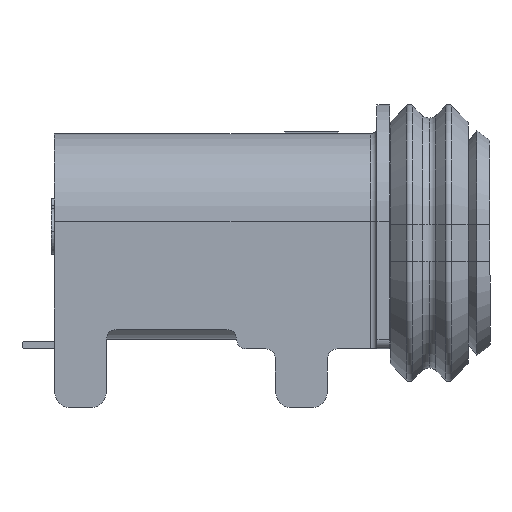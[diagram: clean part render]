
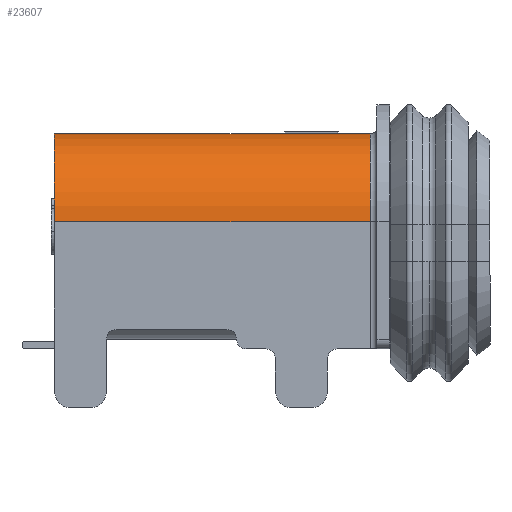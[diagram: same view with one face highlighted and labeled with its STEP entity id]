
A CAD part, front view. The second image highlights one B-rep face of the part: STEP entity #23607.
In plain terms, the highlighted cylindrical face has radius 1.35 mm (diameter 2.7 mm), a partial arc.
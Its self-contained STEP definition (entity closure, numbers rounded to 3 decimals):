
#403 = AXIS2_PLACEMENT_3D ( 'NONE', #21081, #21647, #57491 ) ;
#3842 = EDGE_CURVE ( 'NONE', #16527, #28881, #46842, .T. ) ;
#3853 = CYLINDRICAL_SURFACE ( 'NONE', #403, 1.35 ) ;
#4347 = VERTEX_POINT ( 'NONE', #41269 ) ;
#5651 = CIRCLE ( 'NONE', #46642, 1.35 ) ;
#5788 = DIRECTION ( 'NONE',  ( 1., 0., 0. ) ) ;
#7417 = CARTESIAN_POINT ( 'NONE',  ( 1.63, -0.11, -6.39 ) ) ;
#7708 = LINE ( 'NONE', #7417, #10063 ) ;
#8399 = DIRECTION ( 'NONE',  ( 0., -1., 0. ) ) ;
#9478 = ORIENTED_EDGE ( 'NONE', *, *, #11015, .F. ) ;
#9729 = EDGE_CURVE ( 'NONE', #4347, #56689, #5651, .T. ) ;
#9880 = DIRECTION ( 'NONE',  ( 0., 0., -1. ) ) ;
#10063 = VECTOR ( 'NONE', #57259, 1000. ) ;
#10470 = CARTESIAN_POINT ( 'NONE',  ( 1.63, 1.24, -1.53 ) ) ;
#11015 = EDGE_CURVE ( 'NONE', #4347, #28881, #29431, .T. ) ;
#11632 = DIRECTION ( 'NONE',  ( 0., 0., -1. ) ) ;
#15849 = VECTOR ( 'NONE', #11632, 1000. ) ;
#16527 = VERTEX_POINT ( 'NONE', #55235 ) ;
#20949 = EDGE_CURVE ( 'NONE', #16527, #56689, #7708, .T. ) ;
#21081 = CARTESIAN_POINT ( 'NONE',  ( 1.63, 1.24, -6.487 ) ) ;
#21532 = DIRECTION ( 'NONE',  ( 0., 0., 1. ) ) ;
#21647 = DIRECTION ( 'NONE',  ( 0., 0., 1. ) ) ;
#23607 = ADVANCED_FACE ( 'NONE', ( #26039 ), #3853, .T. ) ;
#25940 = CARTESIAN_POINT ( 'NONE',  ( 2.98, 1.24, -6.39 ) ) ;
#26039 = FACE_OUTER_BOUND ( 'NONE', #30734, .T. ) ;
#28881 = VERTEX_POINT ( 'NONE', #25940 ) ;
#29431 = LINE ( 'NONE', #55655, #15849 ) ;
#30734 = EDGE_LOOP ( 'NONE', ( #9478, #41164, #38084, #41824 ) ) ;
#33807 = AXIS2_PLACEMENT_3D ( 'NONE', #53298, #21532, #8399 ) ;
#38084 = ORIENTED_EDGE ( 'NONE', *, *, #20949, .F. ) ;
#41164 = ORIENTED_EDGE ( 'NONE', *, *, #9729, .T. ) ;
#41269 = CARTESIAN_POINT ( 'NONE',  ( 2.98, 1.24, -1.53 ) ) ;
#41824 = ORIENTED_EDGE ( 'NONE', *, *, #3842, .T. ) ;
#41902 = CARTESIAN_POINT ( 'NONE',  ( 1.63, -0.11, -1.53 ) ) ;
#46642 = AXIS2_PLACEMENT_3D ( 'NONE', #10470, #9880, #5788 ) ;
#46842 = CIRCLE ( 'NONE', #33807, 1.35 ) ;
#53298 = CARTESIAN_POINT ( 'NONE',  ( 1.63, 1.24, -6.39 ) ) ;
#55235 = CARTESIAN_POINT ( 'NONE',  ( 1.63, -0.11, -6.39 ) ) ;
#55655 = CARTESIAN_POINT ( 'NONE',  ( 2.98, 1.24, -1.53 ) ) ;
#56689 = VERTEX_POINT ( 'NONE', #41902 ) ;
#57259 = DIRECTION ( 'NONE',  ( 0., 0., 1. ) ) ;
#57491 = DIRECTION ( 'NONE',  ( 0., -1., 0. ) ) ;
